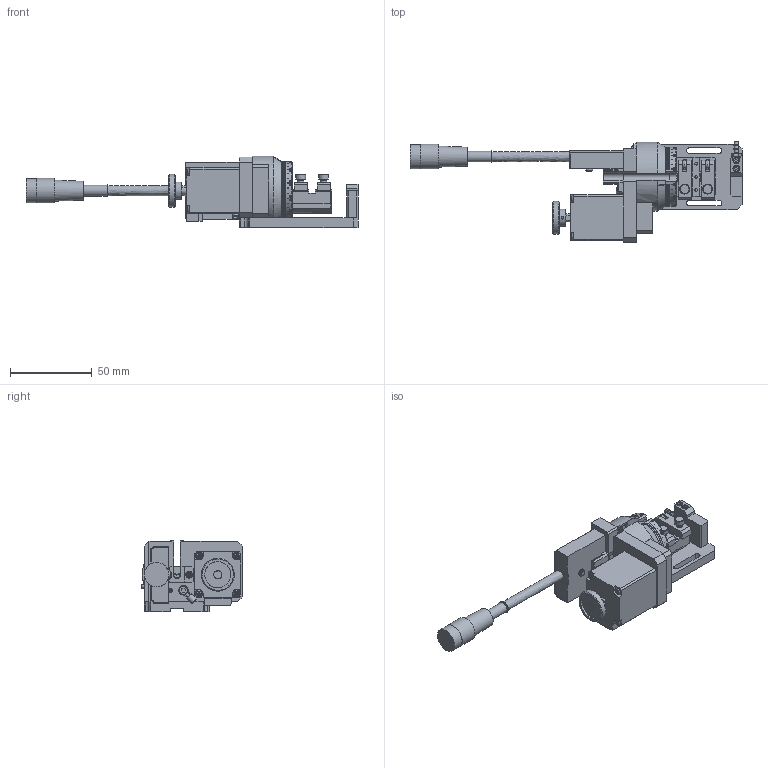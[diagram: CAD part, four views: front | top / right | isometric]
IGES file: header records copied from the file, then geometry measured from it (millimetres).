
Global section: file name: FHRAW-125_400L_IGS; native system: Autodesk Inventor 2021; preprocessor: unknown; author: ta.murata; date: 20230322.183141; units: millimetre
Bounding box: 202.5 x 61.5 x 43.4 mm (x, y, z)
Volume: 113992.8 mm3; surface area: 49204.1 mm2
Topology: 2 solids, 76 shells, 2677 faces, 7225 edges, 4838 vertices
Faces by surface type: bspline 2677
